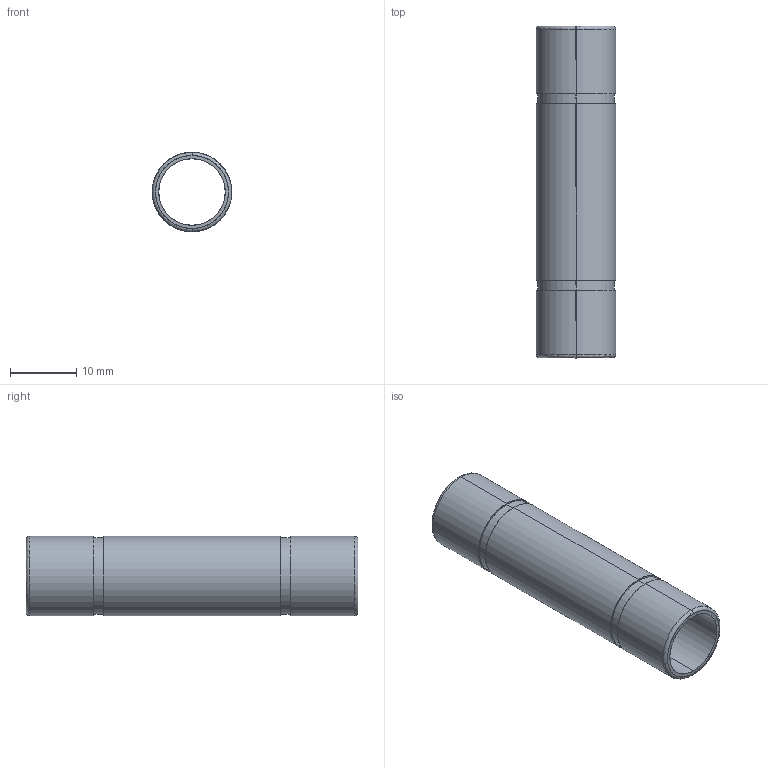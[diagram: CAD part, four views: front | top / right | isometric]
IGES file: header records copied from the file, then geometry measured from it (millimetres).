
Start section: SolidWorks IGES file using analytic representation for surfaces
Global section: file name: K:\Disegni Esecutivi\Serie 50000\50625\506250001Y100.IGS; native system: SolidWorks 2007; preprocessor: SolidWorks 2007; author: cad02; date: 071015.081634; units: millimetre
Bounding box: 12 x 50 x 12 mm (x, y, z)
Surface area: 3534.4 mm2 (no closed solid volume)
Topology: 0 solids, 0 shells, 22 faces, 448 edges, 448 vertices
Faces by surface type: revolution 12, bspline 10
